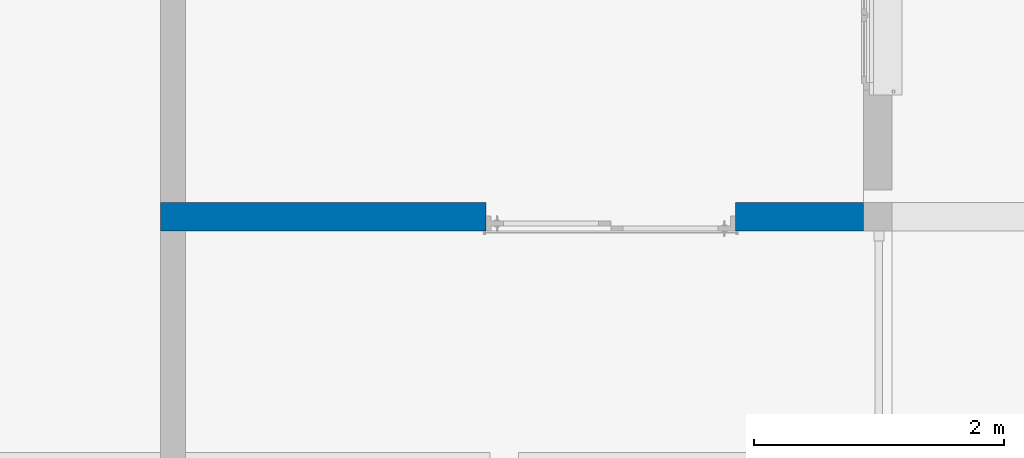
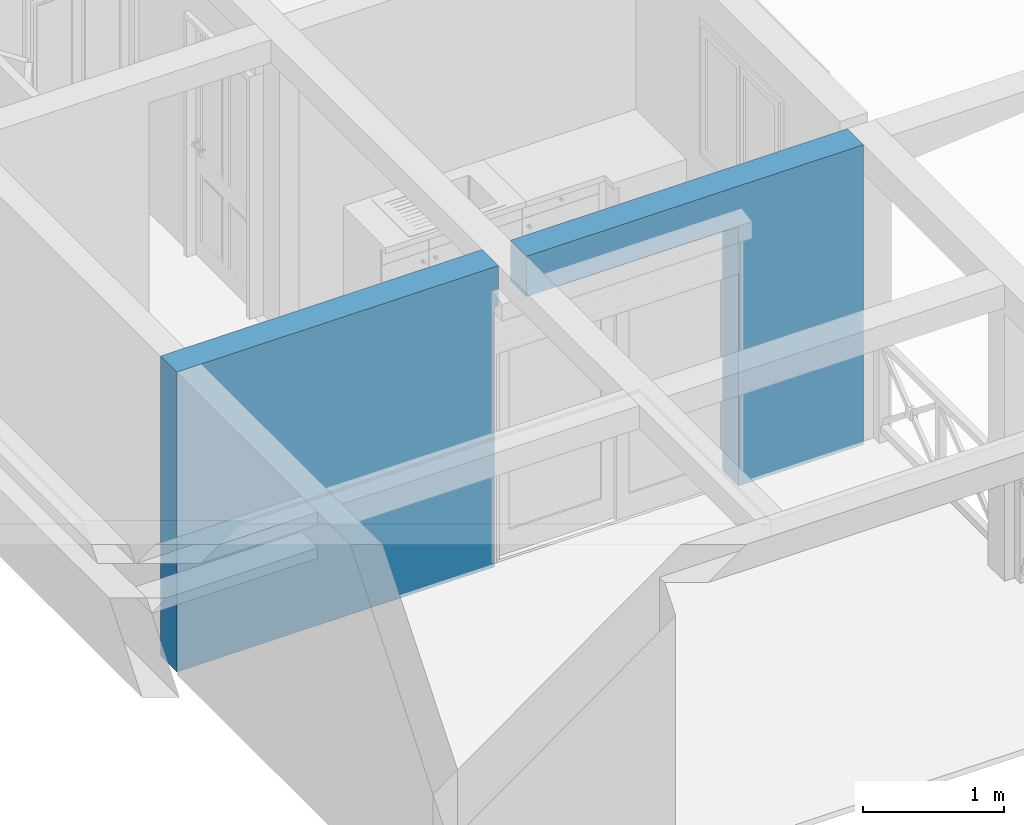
# One storey, part 7 of 13: 1 wall, 1 opening.
"""IFC2X3 building model written with IfcOpenShell, lengths in metres."""

from ifc_helpers import new_model, entity, si_unit, converted_unit, derived_unit, money_unit, direction, frame, origin_with_axes, origin_2d_with_axis, place, context, subcontext, project, spatial, polyline, rectangle, outline, extrude, boolean, faceted_brep, material, type_object, element, save


model = new_model("IFC2X3")

# Units and contexts
model_context = context("Model", 3, precision=1e-05, world=origin_with_axes(), true_north=direction((0.0, 1.0)))
body_context = subcontext(model_context, "Body", "Model", "MODEL_VIEW")
ifc_project = project(units=[si_unit("LENGTHUNIT", "METRE"), si_unit("AREAUNIT", "SQUARE_METRE"), si_unit("VOLUMEUNIT", "CUBIC_METRE"), converted_unit("PLANEANGLEUNIT", "DEGREE", entity("IfcPlaneAngleMeasure", 0.0174532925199), si_unit("PLANEANGLEUNIT", "RADIAN"), dimensions=[0, 0, 0, 0, 0, 0, 0]), si_unit("SOLIDANGLEUNIT", "STERADIAN"), money_unit("CHF"), converted_unit("TIMEUNIT", "Year", entity("IfcTimeMeasure", 31556926.0), si_unit("TIMEUNIT", "SECOND"), dimensions=[0, 0, 1, 0, 0, 0, 0]), si_unit("MASSUNIT", "GRAM", prefix="KILO"), si_unit("THERMODYNAMICTEMPERATUREUNIT", "DEGREE_CELSIUS"), si_unit("LUMINOUSINTENSITYUNIT", "LUMEN"), si_unit("ENERGYUNIT", "JOULE", prefix="MEGA"), derived_unit("THERMALCONDUCTANCEUNIT", [(si_unit("POWERUNIT", "WATT"), 1), (si_unit("LENGTHUNIT", "METRE"), -1), (si_unit("THERMODYNAMICTEMPERATUREUNIT", "KELVIN"), -1)]), derived_unit("SPECIFICHEATCAPACITYUNIT", [(si_unit("ENERGYUNIT", "JOULE"), 1), (si_unit("MASSUNIT", "GRAM", prefix="KILO"), -1), (si_unit("THERMODYNAMICTEMPERATUREUNIT", "KELVIN"), -1)]), derived_unit("MASSDENSITYUNIT", [(si_unit("MASSUNIT", "GRAM", prefix="KILO"), 1), (si_unit("VOLUMEUNIT", "CUBIC_METRE"), -1)])], contexts=[model_context])

# Site, building, storey
site_placement = place(None, origin_with_axes())
site = spatial("IfcSite", under=ifc_project, at=site_placement, Name="Site", CompositionType="ELEMENT")
building_placement = place(site_placement, origin_with_axes())
building = spatial("IfcBuilding", under=site, at=building_placement, Name="Bâtiment", CompositionType="ELEMENT")
storey_placement = place(building_placement, origin_with_axes())
storey = spatial("IfcBuildingStorey", under=building, at=storey_placement, Name="SOUS-SOL", CompositionType="ELEMENT", Elevation=0.0)

# Wall, opening
ifc_material = material(Name="Hachure solide 2628782308")
wall_type = type_object("IfcWallType", Name="Hachure solide 2628782308 230", PredefinedType="NOTDEFINED")
wall_placement = place(storey_placement, frame((89.1055190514, 11.0503410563, -2.79), z_axis=(0.0, 0.0, 1.0), x_axis=(1.0, 0.0, 0.0)))
wall = element("IfcWall", 1, at=wall_placement, inside=storey, type_object=wall_type, material=ifc_material, Name="MurExt-007", context=body_context, shape_type="CSG", body=[
    boolean("DIFFERENCE", boolean("DIFFERENCE", extrude(outline(polyline([(0.0, 0.0), (5.86, 0.0), (5.86, 0.23), (0.0, 0.23), (0.0, 0.0)])), origin_with_axes(), (0.0, 0.0, 1.0), 2.6), faceted_brep([(2.60601973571, 0.23, 0.05), (2.638, 0.23, 0.05), (2.638, 0.23, 2.6), (2.868, 0.23, 2.6), (2.868, 0.23, 0.05), (4.60601968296, 0.23, 0.05), (4.60601968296, 0.23, 0.0), (2.60601973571, 0.23, 0.0), (2.60601973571, 0.0, 0.05), (2.638, 0.0, 0.05), (2.638, 0.0, 2.6), (2.868, 0.0, 2.6), (2.868, 0.0, 0.05), (4.60601968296, 0.0, 0.05), (4.60601968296, 0.0, 0.0), (2.60601973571, 0.0, 0.0)], [[[0, 1, 2, 3, 4, 5, 6, 7]], [[1, 0, 8, 9]], [[10, 2, 1, 9]], [[2, 10, 11, 3]], [[4, 3, 11, 12]], [[5, 4, 12, 13]], [[6, 5, 13, 14]], [[15, 7, 6, 14]], [[0, 7, 15, 8]], [[8, 15, 14, 13, 12, 11, 10, 9]]])), faceted_brep([(5.63, 0.23, 0.0), (5.63, 0.23, 2.6), (5.86, 0.23, 2.6), (5.86, 0.23, 0.0), (5.63, 0.0, 2.6), (5.63, 0.0, 0.0), (5.86, 0.0, 2.6), (5.86, 0.0, 0.0)], [[[0, 1, 2, 3]], [[4, 1, 0, 5]], [[1, 4, 6, 2]], [[6, 7, 3, 2]], [[5, 0, 3, 7]], [[4, 5, 7, 6]]])),
])
opening_placement = place(wall_placement, frame((3.60601971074, 0.0, 0.05), z_axis=(0.0, 0.0, 1.0), x_axis=(1.0, 0.0, 0.0)))
element("IfcOpeningElement", 2, at=opening_placement, cuts=wall, Name="Por-023", context=body_context, shape_type="SweptSolid", body=[
    extrude(rectangle(XDim=2.0, YDim=2.2, at=origin_2d_with_axis()), frame((0.0, 0.23, 1.1), z_axis=(0.0, 1.0, 0.0), x_axis=(1.0, 0.0, 0.0)), (0.0, 0.0, -1.0), 0.69),
])

save(model, "model.ifc")
